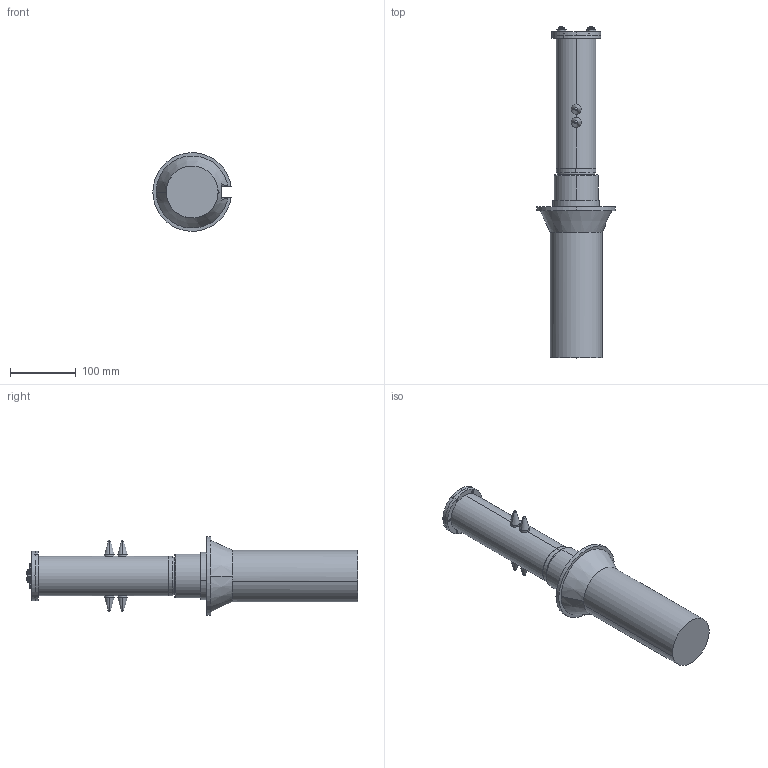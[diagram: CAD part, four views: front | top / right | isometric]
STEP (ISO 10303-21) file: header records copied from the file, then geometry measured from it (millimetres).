
FILE_DESCRIPTION (( 'STEP AP214' ), '1' );
FILE_NAME ('TUBA-za krutine-R3.STEP', '2020-12-10T12:36:23', ( '' ), ( '' ), 'SwSTEP 2.0', 'SolidWorks 2016', '' );
FILE_SCHEMA (( 'AUTOMOTIVE_DESIGN' ));
Length unit declared in the file: millimetre
Products named in the file (1): TUBA-za krutine-R3
Bounding box: 119.39 x 505.97 x 120 mm (x, y, z)
Volume: 444277.6 mm3; surface area: 260343.3 mm2
Topology: 14 solids, 14 shells, 691 faces, 1613 edges, 956 vertices
Faces by surface type: cylinder 263, bspline 168, plane 120, cone 108, torus 32
Entity records: 30983 total; most frequent: CARTESIAN_POINT 8659, ORIENTED_EDGE 3154, DIRECTION 3123, EDGE_CURVE 1577, AXIS2_PLACEMENT_3D 1312, VERTEX_POINT 956, EDGE_LOOP 797, CIRCLE 788
